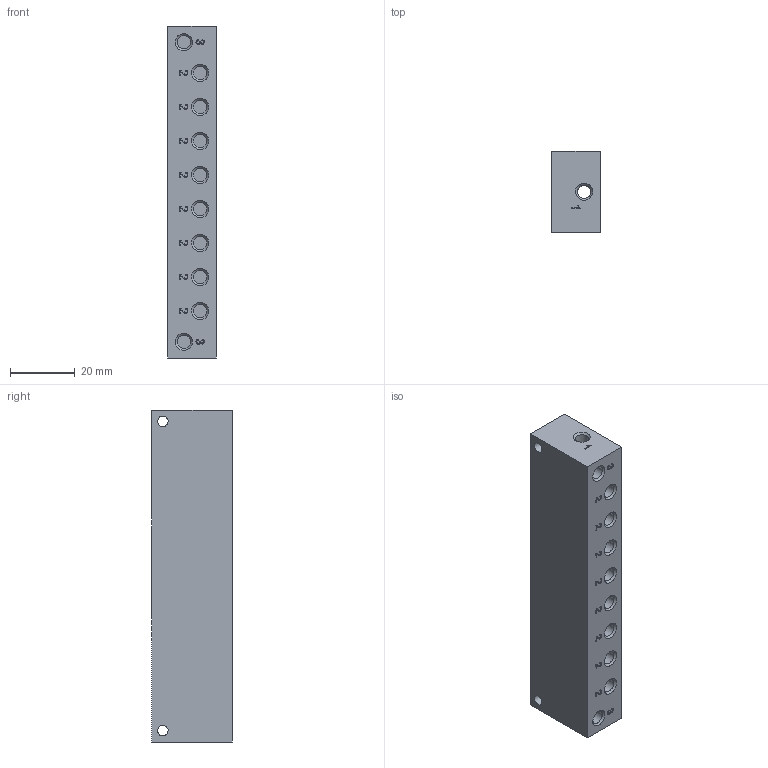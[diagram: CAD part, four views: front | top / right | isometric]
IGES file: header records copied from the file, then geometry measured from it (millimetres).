
Global section: file name: 395_08; native system: Autodesk Inventor 2014; preprocessor: unknown; author: R.Rivoltella; organization: Pneumax S.p.A.; date: 20161005.082421; units: millimetre
Bounding box: 15 x 25 x 102.5 mm (x, y, z)
Volume: 35805 mm3; surface area: 11507.9 mm2
Topology: 1 solids, 1 shells, 257 faces, 735 edges, 504 vertices
Faces by surface type: bspline 257
